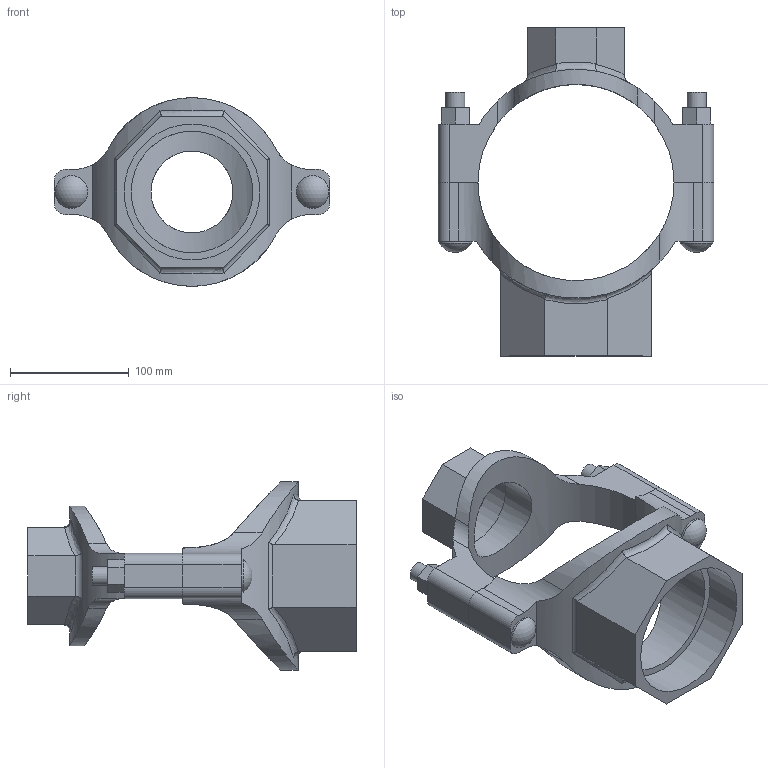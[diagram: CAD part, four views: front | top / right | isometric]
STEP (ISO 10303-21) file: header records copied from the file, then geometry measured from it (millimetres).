
FILE_DESCRIPTION(/* description */ ('VIC MECH-T BRANCH OUTLET CROSS STYLE 920N (THD)','CAx-IF Rec.Pracs.---Representation and Presentation of Product Manufacturing Information (PMI)---4.0---2014-10-13'),/* implementation_level */ '2;1');
FILE_NAME(/* name */ 'C:\Users\Vjadhav\AppData\Roaming\Autodesk\ApplicationPlugins\Back Up\Victaulic_IPS_Mechanical-Cross Outlet_Style 920N (FPT)\Victaulic_IPS_Mechanical-Cross Outlet_06.0 (165.1)x02.5 (76.1)x04.0 (150x65x100).stp',/* time_stamp */ '2020-08-06T19:00:34+06:00',/* author */ ('Vjadhav'),/* organization */ ('Victaulic'),/* preprocessor_version */ 'ST-DEVELOPER v17.2',/* originating_system */ 'Autodesk Inventor 2019',/* authorisation */ '');
FILE_SCHEMA (('AP242_MANAGED_MODEL_BASED_3D_ENGINEERING_MIM_LF { 1 0 10303 442 1 1 4 }'));
Length unit declared in the file: inch
Products named in the file (3): 920NT-06.0 (165.1)x02.5 (76.1)x04.0; 920T-06.0 (165.1)x02.5 (76.1); 920T-06.0 (165.1)x04.0
Assembly tree (2 placements, depth 2):
  920NT-06.0 (165.1)x02.5 (76.1)x04.0
    920T-06.0 (165.1)x02.5 (76.1)
    920T-06.0 (165.1)x04.0
Bounding box: 231.9 x 276.35 x 158.7 mm (x, y, z)
Volume: 906908.7 mm3; surface area: 198087.2 mm2
Topology: 2 solids, 2 shells, 128 faces, 338 edges, 228 vertices
Faces by surface type: plane 68, cylinder 46, bspline 8, torus 4, sphere 2
Full cylindrical faces by diameter (mm): 15.875 x4, 27.496 x2, 68.986 x1, 76.2 x1, 102.394 x1, 114.3 x1
Entity records: 5042 total; most frequent: CARTESIAN_POINT 1637, ORIENTED_EDGE 676, DIRECTION 628, EDGE_CURVE 338, VERTEX_POINT 228, AXIS2_PLACEMENT_3D 223, LINE 182, VECTOR 182
